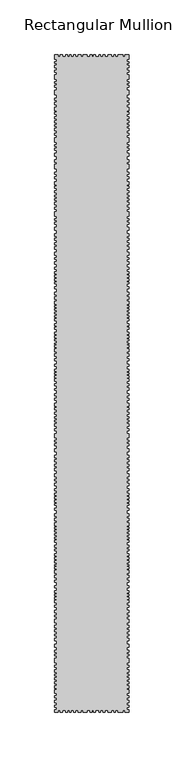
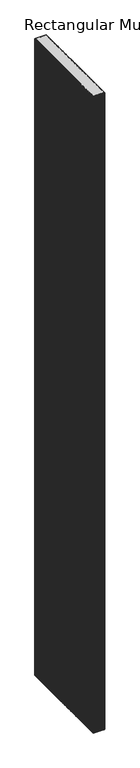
"""IFC4 building model written with IfcOpenShell, lengths in millimetres: member geometry, Rectangular Mullion : DucoSun Cubic Design louvre 600."""

from ifc_helpers import new_model, si_unit, frame, origin, place, context, project, spatial, polyline, outline, extrude, source, transform, mapped, element, save


def rectangular_mullion_b1ff1e1a(model_context):
    return source(origin(), model_context, "Body", "SweptSolid", [
        extrude(outline(polyline([(34.0, -597.3782451), (34.0, -600.0), (30.4544414, -600.0), (30.4544414, -598.0), (28.627942, -598.0), (28.627942, -600.0), (23.9842994, -600.0), (23.9842994, -598.0), (21.8172663, -598.0), (21.8172663, -600.0), (20.3003431, -600.0), (20.3003431, -598.0), (17.9475642, -598.0), (17.9475642, -600.0), (14.8827601, -600.0), (14.8827601, -598.0), (12.0965746, -598.0), (12.0965746, -600.0), (10.3939057, -600.0), (10.3939057, -598.0), (8.0101692, -598.0), (8.0101692, -600.0), (6.5242036, -600.0), (6.5242036, -598.0), (3.4884678, -598.0), (3.4884678, -600.0), (1.7094289, -600.0), (1.7094289, -598.0), (0.0, -598.0), (0.0, -600.0), (-1.8486488, -600.0), (-1.8486488, -598.0), (-4.2128978, -598.0), (-4.2128978, -600.0), (-7.9816511, -600.0), (-7.9816511, -598.0), (-10.0415908, -598.0), (-10.0415908, -600.0), (-12.7335575, -600.0), (-12.7335575, -598.0), (-15.0041729, -598.0), (-15.0041729, -600.0), (-16.8768453, -600.0), (-16.8768453, -598.0), (-18.9367851, -598.0), (-18.9367851, -600.0), (-20.2710642, -600.0), (-20.2710642, -598.0), (-22.3075955, -598.0), (-22.3075955, -600.0), (-23.8993671, -600.0), (-23.8993671, -598.0), (-26.9658683, -598.0), (-26.9658683, -600.0), (-28.9321744, -600.0), (-28.9321744, -598.0), (-30.8750721, -598.0), (-30.8750721, -600.0), (-34.0, -600.0), (-34.0, -597.3782451), (-32.0, -597.3782451), (-32.0, -595.4241521), (-34.0, -595.4241521), (-34.0, -593.6532553), (-32.0, -593.6532553), (-32.0, -590.9460223), (-34.0, -590.9460223), (-34.0, -588.9105087), (-32.0, -588.9105087), (-32.0, -586.7121541), (-34.0, -586.7121541), (-34.0, -585.0023227), (-32.0, -585.0023227), (-32.0, -582.3561551), (-34.0, -582.3561551), (-34.0, -579.3843053), (-32.0, -579.3843053), (-32.0, -577.8917893), (-34.0, -577.8917893), (-34.0, -575.8425117), (-32.0, -575.8425117), (-32.0, -573.8680636), (-34.0, -573.8680636), (-34.0, -572.1582322), (-32.0, -572.1582322), (-32.0, -570.0820083), (-34.0, -570.0820083), (-34.0, -568.3111116), (-32.0, -568.3111116), (-32.0, -566.4995045), (-34.0, -566.4995045), (-34.0, -565.0713495), (-32.0, -565.0713495), (-32.0, -563.4577392), (-34.0, -563.4577392), (-34.0, -561.0328231), (-32.0, -561.0328231), (-32.0, -558.5725067), (-34.0, -558.5725067), (-34.0, -557.0325964), (-32.0, -557.0325964), (-32.0, -554.5014796), (-34.0, -554.5014796), (-34.0, -550.4127524), (-32.0, -550.4127524), (-32.0, -548.4126391), (-34.0, -548.4126391), (-34.0, -546.8373286), (-32.0, -546.8373286), (-32.0, -544.9965163), (-34.0, -544.9965163), (-34.0, -543.3504053), (-32.0, -543.3504053), (-32.0, -540.3767855), (-34.0, -540.3767855), (-34.0, -537.9545244), (-32.0, -537.9545244), (-32.0, -534.5552168), (-34.0, -534.5552168), (-34.0, -532.5197032), (-32.0, -532.5197032), (-32.0, -530.239928), (-34.0, -530.239928), (-34.0, -528.6929377), (-32.0, -528.6929377), (-32.0, -526.4335177), (-34.0, -526.4335177), (-34.0, -524.5608452), (-32.0, -524.5608452), (-32.0, -522.6271073), (-34.0, -522.6271073), (-34.0, -520.5508835), (-32.0, -520.5508835), (-32.0, -518.0064916), (-34.0, -518.0064916), (-34.0, -514.9328661), (-32.0, -514.9328661), (-32.0, -512.9177077), (-34.0, -512.9177077), (-34.0, -511.4114277), (-32.0, -511.4114277), (-32.0, -508.9688114), (-34.0, -508.9688114), (-34.0, -506.7118273), (-32.0, -506.7118273), (-32.0, -503.8852623), (-34.0, -503.8852623), (-34.0, -502.4316003), (-32.0, -502.4316003), (-32.0, -499.9011516), (-34.0, -499.9011516), (-34.0, -497.8552569), (-32.0, -497.8552569), (-32.0, -496.6169522), (-34.0, -496.6169522), (-34.0, -495.0825312), (-32.0, -495.0825312), (-32.0, -493.4673512), (-34.0, -493.4673512), (-34.0, -492.0675286), (-32.0, -492.0675286), (-32.0, -490.5869469), (-34.0, -490.5869469), (-34.0, -489.1602046), (-32.0, -489.1602046), (-32.0, -486.3310055), (-34.0, -486.3310055), (-34.0, -484.2608252), (-32.0, -484.2608252), (-32.0, -481.1919832), (-34.0, -481.1919832), (-34.0, -479.2537672), (-32.0, -479.2537672), (-32.0, -476.9360418), (-34.0, -476.9360418), (-34.0, -475.0004598), (-32.0, -475.0004598), (-32.0, -472.9007258), (-34.0, -472.9007258), (-34.0, -470.1010805), (-32.0, -470.1010805), (-32.0, -468.8089365), (-34.0, -468.8089365), (-34.0, -467.3014351), (-32.0, -467.3014351), (-32.0, -466.0362108), (-34.0, -466.0362108), (-34.0, -465.0401831), (-32.0, -465.0401831), (-32.0, -463.2096458), (-34.0, -463.2096458), (-34.0, -461.6483051), (-32.0, -461.6483051), (-32.0, -460.1408038), (-34.0, -460.1408038), (-34.0, -458.6063828), (-32.0, -458.6063828), (-32.0, -457.0719618), (-34.0, -457.0719618), (-34.0, -455.0799064), (-32.0, -455.0799064), (-32.0, -452.3762692), (-34.0, -452.3762692), (-34.0, -450.8903036), (-32.0, -450.8903036), (-32.0, -449.1257194), (-34.0, -449.1257194), (-34.0, -447.6087962), (-32.0, -447.6087962), (-32.0, -444.8535683), (-34.0, -444.8535683), (-34.0, -442.7484504), (-32.0, -442.7484504), (-32.0, -441.4172729), (-34.0, -441.4172729), (-34.0, -439.9622649), (-32.0, -439.9622649), (-32.0, -438.3524688), (-34.0, -438.3524688), (-34.0, -436.8355456), (-32.0, -436.8355456), (-32.0, -435.1947919), (-34.0, -435.1947919), (-34.0, -433.9255296), (-32.0, -433.9255296), (-32.0, -432.5014792), (-34.0, -432.5014792), (-34.0, -431.1083865), (-32.0, -431.1083865), (-32.0, -429.6843361), (-34.0, -429.6843361), (-34.0, -427.0529387), (-32.0, -427.0529387), (-32.0, -424.9787784), (-34.0, -424.9787784), (-34.0, -423.0284485), (-32.0, -423.0284485), (-32.0, -420.7995001), (-34.0, -420.7995001), (-34.0, -418.8182126), (-32.0, -418.8182126), (-32.0, -415.6914933), (-34.0, -415.6914933), (-34.0, -413.4935025), (-32.0, -413.4935025), (-32.0, -410.954978), (-34.0, -410.954978), (-34.0, -409.4070971), (-32.0, -409.4070971), (-32.0, -408.1378348), (-34.0, -408.1378348), (-34.0, -406.4970812), (-32.0, -406.4970812), (-32.0, -404.8253698), (-34.0, -404.8253698), (-34.0, -403.3394042), (-32.0, -403.3394042), (-32.0, -402.0391843), (-34.0, -402.0391843), (-34.0, -400.0578969), (-32.0, -400.0578969), (-32.0, -397.6741604), (-34.0, -397.6741604), (-34.0, -396.0953219), (-32.0, -396.0953219), (-32.0, -393.3091364), (-34.0, -393.3091364), (-34.0, -391.0182728), (-32.0, -391.0182728), (-32.0, -388.572621), (-34.0, -388.572621), (-34.0, -387.1485707), (-32.0, -387.1485707), (-32.0, -385.0124951), (-34.0, -385.0124951), (-34.0, -382.1643944), (-32.0, -382.1643944), (-32.0, -379.3782089), (-34.0, -379.3782089), (-34.0, -377.427879), (-32.0, -377.427879), (-32.0, -375.4156339), (-34.0, -375.4156339), (-34.0, -373.6510498), (-32.0, -373.6510498), (-32.0, -371.1744404), (-34.0, -371.1744404), (-34.0, -369.6884748), (-32.0, -369.6884748), (-32.0, -367.5523993), (-34.0, -367.5523993), (-34.0, -365.4163237), (-32.0, -365.4163237), (-32.0, -362.1967316), (-34.0, -362.1967316), (-34.0, -359.5343765), (-32.0, -359.5343765), (-32.0, -356.7791486), (-34.0, -356.7791486), (-34.0, -355.0764797), (-32.0, -355.0764797), (-32.0, -352.9404041), (-34.0, -352.9404041), (-34.0, -351.6092266), (-32.0, -351.6092266), (-32.0, -349.5660239), (-34.0, -349.5660239), (-34.0, -345.512038), (-32.0, -345.512038), (-32.0, -343.0030092), (-34.0, -343.0030092), (-34.0, -341.3312979), (-32.0, -341.3312979), (-32.0, -339.0404342), (-34.0, -339.0404342), (-34.0, -336.5638249), (-32.0, -336.5638249), (-32.0, -335.015944), (-34.0, -335.015944), (-34.0, -333.5609361), (-32.0, -333.5609361), (-32.0, -331.5796486), (-34.0, -331.5796486), (-34.0, -330.0627254), (-32.0, -330.0627254), (-32.0, -327.8337769), (-34.0, -327.8337769), (-34.0, -326.1620656), (-32.0, -326.1620656), (-32.0, -324.0259901), (-34.0, -324.0259901), (-34.0, -322.0756602), (-32.0, -322.0756602), (-32.0, -320.6516099), (-34.0, -320.6516099), (-34.0, -317.7415939), (-32.0, -317.7415939), (-32.0, -315.2030693), (-34.0, -315.2030693), (-34.0, -313.1908242), (-32.0, -313.1908242), (-32.0, -311.2404944), (-34.0, -311.2404944), (-34.0, -309.1353764), (-32.0, -309.1353764), (-32.0, -306.2563181), (-34.0, -306.2563181), (-34.0, -304.6155644), (-32.0, -304.6155644), (-32.0, -301.7889994), (-34.0, -301.7889994), (-34.0, -300.3353374), (-32.0, -300.3353374), (-32.0, -297.8048887), (-34.0, -297.8048887), (-34.0, -295.758994), (-32.0, -295.758994), (-32.0, -294.5206893), (-34.0, -294.5206893), (-34.0, -292.9862683), (-32.0, -292.9862683), (-32.0, -291.3710883), (-34.0, -291.3710883), (-34.0, -289.9712657), (-32.0, -289.9712657), (-32.0, -288.490684), (-34.0, -288.490684), (-34.0, -287.0639417), (-32.0, -287.0639417), (-32.0, -284.2347426), (-34.0, -284.2347426), (-34.0, -282.1645623), (-32.0, -282.1645623), (-32.0, -279.0957203), (-34.0, -279.0957203), (-34.0, -277.1575043), (-32.0, -277.1575043), (-32.0, -274.8397789), (-34.0, -274.8397789), (-34.0, -272.9041969), (-32.0, -272.9041969), (-32.0, -270.8044629), (-34.0, -270.8044629), (-34.0, -268.0048176), (-32.0, -268.0048176), (-32.0, -266.7126736), (-34.0, -266.7126736), (-34.0, -265.2051722), (-32.0, -265.2051722), (-32.0, -263.9399479), (-34.0, -263.9399479), (-34.0, -262.9439202), (-32.0, -262.9439202), (-32.0, -261.1133829), (-34.0, -261.1133829), (-34.0, -259.5520422), (-32.0, -259.5520422), (-32.0, -258.0445409), (-34.0, -258.0445409), (-34.0, -256.5101199), (-32.0, -256.5101199), (-32.0, -254.9756989), (-34.0, -254.9756989), (-34.0, -252.9836435), (-32.0, -252.9836435), (-32.0, -250.2800063), (-34.0, -250.2800063), (-34.0, -248.7940407), (-32.0, -248.7940407), (-32.0, -247.0294565), (-34.0, -247.0294565), (-34.0, -245.5125333), (-32.0, -245.5125333), (-32.0, -242.7573054), (-34.0, -242.7573054), (-34.0, -240.6521875), (-32.0, -240.6521875), (-32.0, -239.32101), (-34.0, -239.32101), (-34.0, -237.866002), (-32.0, -237.866002), (-32.0, -236.2562059), (-34.0, -236.2562059), (-34.0, -234.7392827), (-32.0, -234.7392827), (-32.0, -233.098529), (-34.0, -233.098529), (-34.0, -231.8292667), (-32.0, -231.8292667), (-32.0, -230.4052163), (-34.0, -230.4052163), (-34.0, -229.0121236), (-32.0, -229.0121236), (-32.0, -227.5880732), (-34.0, -227.5880732), (-34.0, -224.9566758), (-32.0, -224.9566758), (-32.0, -222.8825155), (-34.0, -222.8825155), (-34.0, -220.9321856), (-32.0, -220.9321856), (-32.0, -218.7032372), (-34.0, -218.7032372), (-34.0, -216.7219497), (-32.0, -216.7219497), (-32.0, -213.5952304), (-34.0, -213.5952304), (-34.0, -211.3972396), (-32.0, -211.3972396), (-32.0, -208.8587151), (-34.0, -208.8587151), (-34.0, -207.3108342), (-32.0, -207.3108342), (-32.0, -206.0415719), (-34.0, -206.0415719), (-34.0, -204.4008183), (-32.0, -204.4008183), (-32.0, -202.7291069), (-34.0, -202.7291069), (-34.0, -201.2431413), (-32.0, -201.2431413), (-32.0, -199.9429214), (-34.0, -199.9429214), (-34.0, -197.961634), (-32.0, -197.961634), (-32.0, -195.5778975), (-34.0, -195.5778975), (-34.0, -193.999059), (-32.0, -193.999059), (-32.0, -191.2128735), (-34.0, -191.2128735), (-34.0, -188.9220099), (-32.0, -188.9220099), (-32.0, -186.4763581), (-34.0, -186.4763581), (-34.0, -185.0523078), (-32.0, -185.0523078), (-32.0, -182.9162322), (-34.0, -182.9162322), (-34.0, -180.0681315), (-32.0, -180.0681315), (-32.0, -177.281946), (-34.0, -177.281946), (-34.0, -175.3316161), (-32.0, -175.3316161), (-32.0, -173.319371), (-34.0, -173.319371), (-34.0, -171.5547869), (-32.0, -171.5547869), (-32.0, -169.0781775), (-34.0, -169.0781775), (-34.0, -167.5922119), (-32.0, -167.5922119), (-32.0, -165.4561364), (-34.0, -165.4561364), (-34.0, -163.3200608), (-32.0, -163.3200608), (-32.0, -160.1004687), (-34.0, -160.1004687), (-34.0, -157.4381136), (-32.0, -157.4381136), (-32.0, -154.6828857), (-34.0, -154.6828857), (-34.0, -152.9802168), (-32.0, -152.9802168), (-32.0, -150.8441412), (-34.0, -150.8441412), (-34.0, -149.5129637), (-32.0, -149.5129637), (-32.0, -147.469761), (-34.0, -147.469761), (-34.0, -143.4157751), (-32.0, -143.4157751), (-32.0, -140.9067463), (-34.0, -140.9067463), (-34.0, -139.235035), (-32.0, -139.235035), (-32.0, -136.9441713), (-34.0, -136.9441713), (-34.0, -134.467562), (-32.0, -134.467562), (-32.0, -132.9196811), (-34.0, -132.9196811), (-34.0, -131.4646731), (-32.0, -131.4646731), (-32.0, -129.4833857), (-34.0, -129.4833857), (-34.0, -127.9664625), (-32.0, -127.9664625), (-32.0, -125.737514), (-34.0, -125.737514), (-34.0, -124.0658027), (-32.0, -124.0658027), (-32.0, -121.9297272), (-34.0, -121.9297272), (-34.0, -119.9793973), (-32.0, -119.9793973), (-32.0, -118.555347), (-34.0, -118.555347), (-34.0, -115.645331), (-32.0, -115.645331), (-32.0, -113.1068064), (-34.0, -113.1068064), (-34.0, -111.0945613), (-32.0, -111.0945613), (-32.0, -109.1442315), (-34.0, -109.1442315), (-34.0, -107.0391135), (-32.0, -107.0391135), (-32.0, -104.0), (-34.0, -104.0), (-34.0, -100.0), (-32.0, -100.0), (-32.0, -97.8639244), (-34.0, -97.8639244), (-34.0, -95.7278489), (-32.0, -95.7278489), (-32.0, -92.5082567), (-34.0, -92.5082567), (-34.0, -89.8459017), (-32.0, -89.8459017), (-32.0, -87.0906738), (-34.0, -87.0906738), (-34.0, -85.3880049), (-32.0, -85.3880049), (-32.0, -83.2519293), (-34.0, -83.2519293), (-34.0, -81.9207518), (-32.0, -81.9207518), (-32.0, -79.8775491), (-34.0, -79.8775491), (-34.0, -75.8235632), (-32.0, -75.8235632), (-32.0, -73.3145343), (-34.0, -73.3145343), (-34.0, -71.642823), (-32.0, -71.642823), (-32.0, -69.3519594), (-34.0, -69.3519594), (-34.0, -66.8753501), (-32.0, -66.8753501), (-32.0, -65.3274692), (-34.0, -65.3274692), (-34.0, -63.8724612), (-32.0, -63.8724612), (-32.0, -61.8911738), (-34.0, -61.8911738), (-34.0, -60.3742505), (-32.0, -60.3742505), (-32.0, -58.1453021), (-34.0, -58.1453021), (-34.0, -56.4735908), (-32.0, -56.4735908), (-32.0, -54.3375153), (-34.0, -54.3375153), (-34.0, -52.3871854), (-32.0, -52.3871854), (-32.0, -50.963135), (-34.0, -50.963135), (-34.0, -48.0531191), (-32.0, -48.0531191), (-32.0, -45.5145945), (-34.0, -45.5145945), (-34.0, -43.5023494), (-32.0, -43.5023494), (-32.0, -41.5520195), (-34.0, -41.5520195), (-34.0, -39.4469016), (-32.0, -39.4469016), (-32.0, -36.4077881), (-34.0, -36.4077881), (-34.0, -32.4077881), (-32.0, -32.4077881), (-32.0, -29.6525602), (-34.0, -29.6525602), (-34.0, -27.9498913), (-32.0, -27.9498913), (-32.0, -25.8138157), (-34.0, -25.8138157), (-34.0, -24.4826382), (-32.0, -24.4826382), (-32.0, -22.4394355), (-34.0, -22.4394355), (-34.0, -18.3854496), (-32.0, -18.3854496), (-32.0, -15.8764207), (-34.0, -15.8764207), (-34.0, -14.2047094), (-32.0, -14.2047094), (-32.0, -11.9138458), (-34.0, -11.9138458), (-34.0, -9.4372364), (-32.0, -9.4372364), (-32.0, -7.8893556), (-34.0, -7.8893556), (-34.0, -6.4343476), (-32.0, -6.4343476), (-32.0, -4.0), (-34.0, -4.0), (-34.0, 0.0), (-30.8750721, 0.0), (-30.8750721, -2.0), (-28.9321744, -2.0), (-28.9321744, 0.0), (-26.9658683, 0.0), (-26.9658683, -2.0), (-23.8993671, -2.0), (-23.8993671, 0.0), (-22.3075955, 0.0), (-22.3075955, -2.0), (-20.2710642, -2.0), (-20.2710642, 0.0), (-18.9367851, 0.0), (-18.9367851, -2.0), (-16.8768453, -2.0), (-16.8768453, 0.0), (-15.0041729, 0.0), (-15.0041729, -2.0), (-12.7335575, -2.0), (-12.7335575, 0.0), (-10.0415908, 0.0), (-10.0415908, -2.0), (-7.9816511, -2.0), (-7.9816511, 0.0), (-4.2128978, 0.0), (-4.2128978, -2.0), (-1.8486488, -2.0), (-1.8486488, 0.0), (0.0, 0.0), (0.0, -2.0), (1.7094289, -2.0), (1.7094289, 0.0), (3.4884678, 0.0), (3.4884678, -2.0), (6.5242036, -2.0), (6.5242036, 0.0), (8.0101692, 0.0), (8.0101692, -2.0), (10.3939057, -2.0), (10.3939057, 0.0), (12.0965746, 0.0), (12.0965746, -2.0), (14.8827601, -2.0), (14.8827601, 0.0), (17.9475642, 0.0), (17.9475642, -2.0), (20.3003431, -2.0), (20.3003431, 0.0), (21.8172663, 0.0), (21.8172663, -2.0), (23.9842994, -2.0), (23.9842994, 0.0), (28.627942, 0.0), (28.627942, -2.0), (30.4544414, -2.0), (30.4544414, 0.0), (34.0, 0.0), (34.0, -4.0), (32.0, -4.0), (32.0, -6.4343476), (34.0, -6.4343476), (34.0, -7.8893556), (32.0, -7.8893556), (32.0, -9.4372364), (34.0, -9.4372364), (34.0, -11.9138458), (32.0, -11.9138458), (32.0, -14.2047094), (34.0, -14.2047094), (34.0, -15.8764207), (32.0, -15.8764207), (32.0, -18.3854496), (34.0, -18.3854496), (34.0, -22.4394355), (32.0, -22.4394355), (32.0, -24.4826382), (34.0, -24.4826382), (34.0, -25.8138157), (32.0, -25.8138157), (32.0, -27.9498913), (34.0, -27.9498913), (34.0, -29.6525602), (32.0, -29.6525602), (32.0, -32.4077881), (34.0, -32.4077881), (34.0, -36.4077881), (32.0, -36.4077881), (32.0, -39.4469016), (34.0, -39.4469016), (34.0, -41.5520195), (32.0, -41.5520195), (32.0, -43.5023494), (34.0, -43.5023494), (34.0, -45.5145945), (32.0, -45.5145945), (32.0, -48.0531191), (34.0, -48.0531191), (34.0, -50.963135), (32.0, -50.963135), (32.0, -52.3871854), (34.0, -52.3871854), (34.0, -54.3375153), (32.0, -54.3375153), (32.0, -56.4735908), (34.0, -56.4735908), (34.0, -58.1453021), (32.0, -58.1453021), (32.0, -60.3742505), (34.0, -60.3742505), (34.0, -61.8911738), (32.0, -61.8911738), (32.0, -63.8724612), (34.0, -63.8724612), (34.0, -65.3274692), (32.0, -65.3274692), (32.0, -66.8753501), (34.0, -66.8753501), (34.0, -69.3519594), (32.0, -69.3519594), (32.0, -71.642823), (34.0, -71.642823), (34.0, -73.3145343), (32.0, -73.3145343), (32.0, -75.8235632), (34.0, -75.8235632), (34.0, -79.8775491), (32.0, -79.8775491), (32.0, -81.9207518), (34.0, -81.9207518), (34.0, -83.2519293), (32.0, -83.2519293), (32.0, -85.3880049), (34.0, -85.3880049), (34.0, -87.0906738), (32.0, -87.0906738), (32.0, -89.8459017), (34.0, -89.8459017), (34.0, -92.5082567), (32.0, -92.5082567), (32.0, -95.7278489), (34.0, -95.7278489), (34.0, -97.8639244), (32.0, -97.8639244), (32.0, -100.0), (34.0, -100.0), (34.0, -104.0), (32.0, -104.0), (32.0, -107.0391135), (34.0, -107.0391135), (34.0, -109.1442315), (32.0, -109.1442315), (32.0, -111.0945613), (34.0, -111.0945613), (34.0, -113.1068064), (32.0, -113.1068064), (32.0, -115.645331), (34.0, -115.645331), (34.0, -118.555347), (32.0, -118.555347), (32.0, -119.9793973), (34.0, -119.9793973), (34.0, -121.9297272), (32.0, -121.9297272), (32.0, -124.0658027), (34.0, -124.0658027), (34.0, -125.737514), (32.0, -125.737514), (32.0, -127.9664625), (34.0, -127.9664625), (34.0, -129.4833857), (32.0, -129.4833857), (32.0, -131.4646731), (34.0, -131.4646731), (34.0, -132.9196811), (32.0, -132.9196811), (32.0, -134.467562), (34.0, -134.467562), (34.0, -136.9441713), (32.0, -136.9441713), (32.0, -139.235035), (34.0, -139.235035), (34.0, -140.9067463), (32.0, -140.9067463), (32.0, -143.4157751), (34.0, -143.4157751), (34.0, -147.469761), (32.0, -147.469761), (32.0, -149.5129637), (34.0, -149.5129637), (34.0, -150.8441412), (32.0, -150.8441412), (32.0, -152.9802168), (34.0, -152.9802168), (34.0, -154.6828857), (32.0, -154.6828857), (32.0, -157.4381136), (34.0, -157.4381136), (34.0, -160.1004687), (32.0, -160.1004687), (32.0, -163.3200608), (34.0, -163.3200608), (34.0, -165.4561364), (32.0, -165.4561364), (32.0, -167.5922119), (34.0, -167.5922119), (34.0, -169.0781775), (32.0, -169.0781775), (32.0, -171.5547869), (34.0, -171.5547869), (34.0, -173.319371), (32.0, -173.319371), (32.0, -175.3316161), (34.0, -175.3316161), (34.0, -177.281946), (32.0, -177.281946), (32.0, -180.0681315), (34.0, -180.0681315), (34.0, -182.9162322), (32.0, -182.9162322), (32.0, -185.0523078), (34.0, -185.0523078), (34.0, -186.4763581), (32.0, -186.4763581), (32.0, -188.9220099), (34.0, -188.9220099), (34.0, -191.2128735), (32.0, -191.2128735), (32.0, -193.999059), (34.0, -193.999059), (34.0, -195.5778975), (32.0, -195.5778975), (32.0, -197.961634), (34.0, -197.961634), (34.0, -199.9429214), (32.0, -199.9429214), (32.0, -201.2431413), (34.0, -201.2431413), (34.0, -202.7291069), (32.0, -202.7291069), (32.0, -204.4008183), (34.0, -204.4008183), (34.0, -206.0415719), (32.0, -206.0415719), (32.0, -207.3108342), (34.0, -207.3108342), (34.0, -208.8587151), (32.0, -208.8587151), (32.0, -211.3972396), (34.0, -211.3972396), (34.0, -213.5952304), (32.0, -213.5952304), (32.0, -216.7219497), (34.0, -216.7219497), (34.0, -218.7032372), (32.0, -218.7032372), (32.0, -220.9321856), (34.0, -220.9321856), (34.0, -222.8825155), (32.0, -222.8825155), (32.0, -224.9566758), (34.0, -224.9566758), (34.0, -227.5880732), (32.0, -227.5880732), (32.0, -229.0121236), (34.0, -229.0121236), (34.0, -230.4052163), (32.0, -230.4052163), (32.0, -231.8292667), (34.0, -231.8292667), (34.0, -233.098529), (32.0, -233.098529), (32.0, -234.7392827), (34.0, -234.7392827), (34.0, -236.2562059), (32.0, -236.2562059), (32.0, -237.866002), (34.0, -237.866002), (34.0, -239.32101), (32.0, -239.32101), (32.0, -240.6521875), (34.0, -240.6521875), (34.0, -242.7573054), (32.0, -242.7573054), (32.0, -245.5125333), (34.0, -245.5125333), (34.0, -247.0294565), (32.0, -247.0294565), (32.0, -248.7940407), (34.0, -248.7940407), (34.0, -250.2800063), (32.0, -250.2800063), (32.0, -252.9836435), (34.0, -252.9836435), (34.0, -254.9756989), (32.0, -254.9756989), (32.0, -256.5101199), (34.0, -256.5101199), (34.0, -258.0445409), (32.0, -258.0445409), (32.0, -259.5520422), (34.0, -259.5520422), (34.0, -261.1133829), (32.0, -261.1133829), (32.0, -262.9439202), (34.0, -262.9439202), (34.0, -263.9399479), (32.0, -263.9399479), (32.0, -265.2051722), (34.0, -265.2051722), (34.0, -266.7126736), (32.0, -266.7126736), (32.0, -268.0048176), (34.0, -268.0048176), (34.0, -270.8044629), (32.0, -270.8044629), (32.0, -272.9041969), (34.0, -272.9041969), (34.0, -274.8397789), (32.0, -274.8397789), (32.0, -277.1575043), (34.0, -277.1575043), (34.0, -279.0957203), (32.0, -279.0957203), (32.0, -282.1645623), (34.0, -282.1645623), (34.0, -284.2347426), (32.0, -284.2347426), (32.0, -287.0639417), (34.0, -287.0639417), (34.0, -288.490684), (32.0, -288.490684), (32.0, -289.9712657), (34.0, -289.9712657), (34.0, -291.3710883), (32.0, -291.3710883), (32.0, -292.9862683), (34.0, -292.9862683), (34.0, -294.5206893), (32.0, -294.5206893), (32.0, -295.758994), (34.0, -295.758994), (34.0, -297.8048887), (32.0, -297.8048887), (32.0, -300.3353374), (34.0, -300.3353374), (34.0, -301.7889994), (32.0, -301.7889994), (32.0, -303.7186411), (34.0, -303.7186411), (34.0, -306.2563181), (32.0, -306.2563181), (32.0, -309.1353764), (34.0, -309.1353764), (34.0, -311.2404944), (32.0, -311.2404944), (32.0, -313.1908242), (34.0, -313.1908242), (34.0, -315.2030693), (32.0, -315.2030693), (32.0, -317.7415939), (34.0, -317.7415939), (34.0, -320.6516099), (32.0, -320.6516099), (32.0, -322.0756602), (34.0, -322.0756602), (34.0, -324.0259901), (32.0, -324.0259901), (32.0, -326.1620656), (34.0, -326.1620656), (34.0, -327.8337769), (32.0, -327.8337769), (32.0, -330.0627254), (34.0, -330.0627254), (34.0, -331.5796486), (32.0, -331.5796486), (32.0, -333.5609361), (34.0, -333.5609361), (34.0, -335.015944), (32.0, -335.015944), (32.0, -336.5638249), (34.0, -336.5638249), (34.0, -339.0404342), (32.0, -339.0404342), (32.0, -341.3312979), (34.0, -341.3312979), (34.0, -343.0030092), (32.0, -343.0030092), (32.0, -345.512038), (34.0, -345.512038), (34.0, -349.5660239), (32.0, -349.5660239), (32.0, -351.6092266), (34.0, -351.6092266), (34.0, -352.9404041), (32.0, -352.9404041), (32.0, -355.0764797), (34.0, -355.0764797), (34.0, -356.7791486), (32.0, -356.7791486), (32.0, -359.5343765), (34.0, -359.5343765), (34.0, -362.1967316), (32.0, -362.1967316), (32.0, -365.4163237), (34.0, -365.4163237), (34.0, -367.5523993), (32.0, -367.5523993), (32.0, -369.6884748), (34.0, -369.6884748), (34.0, -371.1744404), (32.0, -371.1744404), (32.0, -373.6510498), (34.0, -373.6510498), (34.0, -375.4156339), (32.0, -375.4156339), (32.0, -377.427879), (34.0, -377.427879), (34.0, -379.3782089), (32.0, -379.3782089), (32.0, -382.1643944), (34.0, -382.1643944), (34.0, -385.0124951), (32.0, -385.0124951), (32.0, -387.1485707), (34.0, -387.1485707), (34.0, -388.572621), (32.0, -388.572621), (32.0, -391.0182728), (34.0, -391.0182728), (34.0, -393.3091364), (32.0, -393.3091364), (32.0, -396.0953219), (34.0, -396.0953219), (34.0, -397.6741604), (32.0, -397.6741604), (32.0, -400.0578969), (34.0, -400.0578969), (34.0, -402.0391843), (32.0, -402.0391843), (32.0, -403.3394042), (34.0, -403.3394042), (34.0, -404.8253698), (32.0, -404.8253698), (32.0, -406.4970812), (34.0, -406.4970812), (34.0, -408.1378348), (32.0, -408.1378348), (32.0, -409.4070971), (34.0, -409.4070971), (34.0, -410.954978), (32.0, -410.954978), (32.0, -413.4935025), (34.0, -413.4935025), (34.0, -415.6914933), (32.0, -415.6914933), (32.0, -418.8182126), (34.0, -418.8182126), (34.0, -420.7995001), (32.0, -420.7995001), (32.0, -423.0284485), (34.0, -423.0284485), (34.0, -424.9787784), (32.0, -424.9787784), (32.0, -427.0529387), (34.0, -427.0529387), (34.0, -429.6843361), (32.0, -429.6843361), (32.0, -431.1083865), (34.0, -431.1083865), (34.0, -432.5014792), (32.0, -432.5014792), (32.0, -433.9255296), (34.0, -433.9255296), (34.0, -435.1947919), (32.0, -435.1947919), (32.0, -436.8355456), (34.0, -436.8355456), (34.0, -438.3524688), (32.0, -438.3524688), (32.0, -439.9622649), (34.0, -439.9622649), (34.0, -441.4172729), (32.0, -441.4172729), (32.0, -442.7484504), (34.0, -442.7484504), (34.0, -444.8535683), (32.0, -444.8535683), (32.0, -447.6087962), (34.0, -447.6087962), (34.0, -449.1257194), (32.0, -449.1257194), (32.0, -450.8903036), (34.0, -450.8903036), (34.0, -452.3762692), (32.0, -452.3762692), (32.0, -455.0799064), (34.0, -455.0799064), (34.0, -457.0719618), (32.0, -457.0719618), (32.0, -458.6063828), (34.0, -458.6063828), (34.0, -460.1408038), (32.0, -460.1408038), (32.0, -461.6483051), (34.0, -461.6483051), (34.0, -463.2096458), (32.0, -463.2096458), (32.0, -465.0401831), (34.0, -465.0401831), (34.0, -466.0362108), (32.0, -466.0362108), (32.0, -467.3014351), (34.0, -467.3014351), (34.0, -468.8089365), (32.0, -468.8089365), (32.0, -470.1010805), (34.0, -470.1010805), (34.0, -472.9007258), (32.0, -472.9007258), (32.0, -475.0004598), (34.0, -475.0004598), (34.0, -476.9360418), (32.0, -476.9360418), (32.0, -479.2537672), (34.0, -479.2537672), (34.0, -481.1919832), (32.0, -481.1919832), (32.0, -484.2608252), (34.0, -484.2608252), (34.0, -486.3310055), (32.0, -486.3310055), (32.0, -489.1602046), (34.0, -489.1602046), (34.0, -490.5869469), (32.0, -490.5869469), (32.0, -492.0675286), (34.0, -492.0675286), (34.0, -493.4673512), (32.0, -493.4673512), (32.0, -495.0825312), (34.0, -495.0825312), (34.0, -496.6169522), (32.0, -496.6169522), (32.0, -497.8552569), (34.0, -497.8552569), (34.0, -499.9011516), (32.0, -499.9011516), (32.0, -502.4316003), (34.0, -502.4316003), (34.0, -503.8852623), (32.0, -503.8852623), (32.0, -506.7118273), (34.0, -506.7118273), (34.0, -508.9688114), (32.0, -508.9688114), (32.0, -511.4114277), (34.0, -511.4114277), (34.0, -512.9177077), (32.0, -512.9177077), (32.0, -514.9328661), (34.0, -514.9328661), (34.0, -518.0064916), (32.0, -518.0064916), (32.0, -520.5508835), (34.0, -520.5508835), (34.0, -522.6271073), (32.0, -522.6271073), (32.0, -524.5608452), (34.0, -524.5608452), (34.0, -526.4335177), (32.0, -526.4335177), (32.0, -528.6929377), (34.0, -528.6929377), (34.0, -530.239928), (32.0, -530.239928), (32.0, -532.5197032), (34.0, -532.5197032), (34.0, -534.5552168), (32.0, -534.5552168), (32.0, -537.9545244), (34.0, -537.9545244), (34.0, -540.3767855), (32.0, -540.3767855), (32.0, -543.3504053), (34.0, -543.3504053), (34.0, -544.9965163), (32.0, -544.9965163), (32.0, -546.8373286), (34.0, -546.8373286), (34.0, -548.4126391), (32.0, -548.4126391), (32.0, -550.4127524), (34.0, -550.4127524), (34.0, -554.5014796), (32.0, -554.5014796), (32.0, -557.0325964), (34.0, -557.0325964), (34.0, -558.5725067), (32.0, -558.5725067), (32.0, -561.0328231), (34.0, -561.0328231), (34.0, -563.4577392), (32.0, -563.4577392), (32.0, -565.0713495), (34.0, -565.0713495), (34.0, -566.4995045), (32.0, -566.4995045), (32.0, -568.3111116), (34.0, -568.3111116), (34.0, -570.0820083), (32.0, -570.0820083), (32.0, -572.1582322), (34.0, -572.1582322), (34.0, -573.8680636), (32.0, -573.8680636), (32.0, -575.8425117), (34.0, -575.8425117), (34.0, -577.8917893), (32.0, -577.8917893), (32.0, -579.3843053), (34.0, -579.3843053), (34.0, -582.3561551), (32.0, -582.3561551), (32.0, -585.0023227), (34.0, -585.0023227), (34.0, -586.7121541), (32.0, -586.7121541), (32.0, -588.9105087), (34.0, -588.9105087), (34.0, -590.9460223), (32.0, -590.9460223), (32.0, -593.6532553), (34.0, -593.6532553), (34.0, -595.4241521), (32.0, -595.4241521), (32.0, -597.3782451), (34.0, -597.3782451)])), frame((0.0, 0.0, -4000.0), z_axis=(0.0, 0.0, 1.0), x_axis=(1.0, 0.0, 0.0)), (0.0, 0.0, 1.0), 4000.0),
    ])


if __name__ == "__main__":
    model = new_model("IFC4")
    model_context = context("Model", 3, world=origin())
    ifc_project = project(units=[si_unit("LENGTHUNIT", "METRE", prefix="MILLI")], contexts=[model_context])
    site = spatial("IfcSite", under=ifc_project)
    building = spatial("IfcBuilding", under=site)
    placement = place(None, origin())
    rectangular_mullion_shape = rectangular_mullion_b1ff1e1a(model_context)
    element("IfcMember", 1, ObjectType="Rectangular Mullion : DucoSun Cubic Design louvre 600", at=placement, inside=building, context=model_context, shape_type="MappedRepresentation", body=[
        mapped(rectangular_mullion_shape, transform((0.0, 0.0, 0.0), x_axis=(1.0, 0.0, 0.0), y_axis=(0.0, 1.0, 0.0), z_axis=(0.0, 0.0, 1.0))),
    ])
    save(model, "model.ifc")
